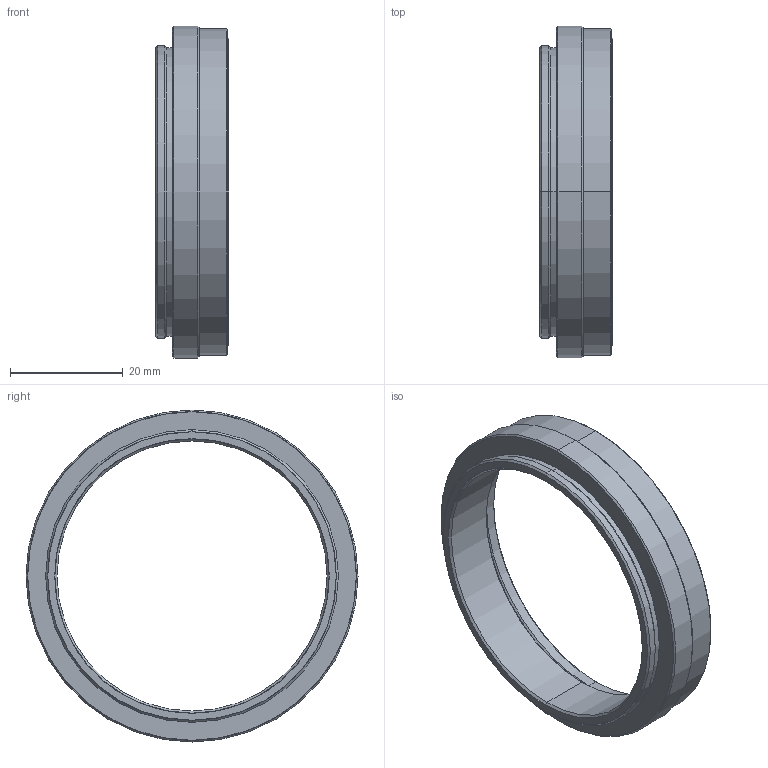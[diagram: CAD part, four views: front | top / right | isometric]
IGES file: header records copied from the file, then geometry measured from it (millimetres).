
Start section: SolidWorks IGES file using analytic representation for surfaces
Bounding box: 13 x 59 x 59 mm (x, y, z)
Surface area: 6098.1 mm2 (no closed solid volume)
Topology: 0 solids, 0 shells, 40 faces, 904 edges, 904 vertices
Faces by surface type: revolution 34, bspline 6
